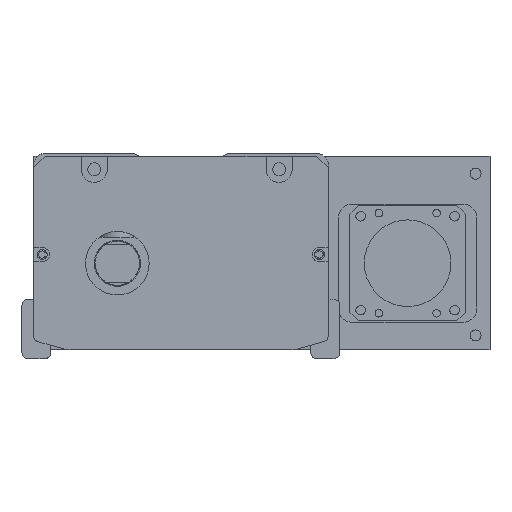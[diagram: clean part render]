
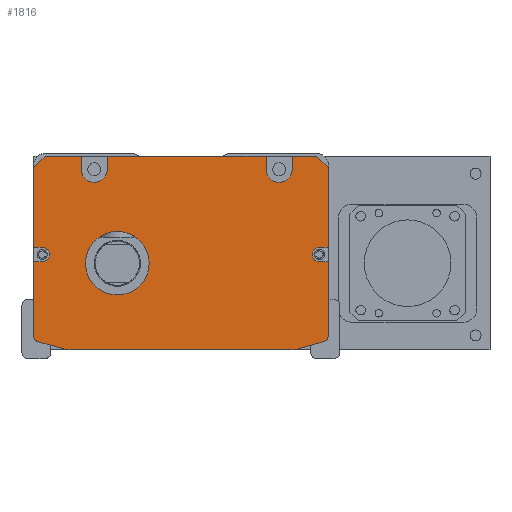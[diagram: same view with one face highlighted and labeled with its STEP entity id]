
A CAD part, front view. The second image highlights one B-rep face of the part: STEP entity #1816.
In plain terms, the highlighted planar face has unit normal (0, -1, 0).
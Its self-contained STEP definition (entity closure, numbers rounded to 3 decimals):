
#1816=ADVANCED_FACE('',(#4344,#4345),#2345,.F.);
#2345=PLANE('',#13677);
#2874=LINE('',#26432,#3667);
#2878=LINE('',#26441,#3671);
#2886=LINE('',#26468,#3679);
#2890=LINE('',#26477,#3683);
#2897=LINE('',#26493,#3690);
#2899=LINE('',#26498,#3692);
#2914=LINE('',#26541,#3707);
#2916=LINE('',#26549,#3709);
#2919=LINE('',#26553,#3712);
#2940=LINE('',#26621,#3733);
#2944=LINE('',#26630,#3737);
#2948=LINE('',#26639,#3741);
#2952=LINE('',#26648,#3745);
#2956=LINE('',#26664,#3749);
#2960=LINE('',#26670,#3753);
#2961=LINE('',#26671,#3754);
#2963=LINE('',#26687,#3756);
#2964=LINE('',#26688,#3757);
#2965=LINE('',#26689,#3758);
#2966=LINE('',#26690,#3759);
#3667=VECTOR('',#16139,1.);
#3671=VECTOR('',#16145,1.);
#3679=VECTOR('',#16167,1.);
#3683=VECTOR('',#16173,1.);
#3690=VECTOR('',#16182,1.);
#3692=VECTOR('',#16186,1.);
#3707=VECTOR('',#16225,1.);
#3709=VECTOR('',#16235,1.);
#3712=VECTOR('',#16240,1.);
#3733=VECTOR('',#16315,1.);
#3737=VECTOR('',#16321,1.);
#3741=VECTOR('',#16327,1.);
#3745=VECTOR('',#16333,1.);
#3749=VECTOR('',#16351,1.);
#3753=VECTOR('',#16355,1.);
#3754=VECTOR('',#16356,1.);
#3756=VECTOR('',#16380,1.);
#3757=VECTOR('',#16381,1.);
#3758=VECTOR('',#16382,1.);
#3759=VECTOR('',#16383,1.);
#4344=FACE_BOUND('',#5190,.T.);
#4345=FACE_BOUND('',#5191,.T.);
#5190=EDGE_LOOP('',(#7619,#7620,#7621,#7622,#7623,#7624,#7625,#7626,#7627,
#7628,#7629,#7630,#7631,#7632,#7633,#7634,#7635,#7636,#7637,#7638,#7639,
#7640,#7641,#7642,#7643,#7644,#7645,#7646));
#5191=EDGE_LOOP('',(#7647));
#7619=ORIENTED_EDGE('',*,*,#11532,.T.);
#7620=ORIENTED_EDGE('',*,*,#11409,.T.);
#7621=ORIENTED_EDGE('',*,*,#11519,.T.);
#7622=ORIENTED_EDGE('',*,*,#11436,.F.);
#7623=ORIENTED_EDGE('',*,*,#11473,.T.);
#7624=ORIENTED_EDGE('',*,*,#11438,.F.);
#7625=ORIENTED_EDGE('',*,*,#11524,.T.);
#7626=ORIENTED_EDGE('',*,*,#11425,.F.);
#7627=ORIENTED_EDGE('',*,*,#11470,.T.);
#7628=ORIENTED_EDGE('',*,*,#11429,.F.);
#7629=ORIENTED_EDGE('',*,*,#11523,.T.);
#7630=ORIENTED_EDGE('',*,*,#11413,.T.);
#7631=ORIENTED_EDGE('',*,*,#11533,.T.);
#7632=ORIENTED_EDGE('',*,*,#11503,.T.);
#7633=ORIENTED_EDGE('',*,*,#11531,.T.);
#7634=ORIENTED_EDGE('',*,*,#11499,.T.);
#7635=ORIENTED_EDGE('',*,*,#11534,.T.);
#7636=ORIENTED_EDGE('',*,*,#11456,.T.);
#7637=ORIENTED_EDGE('',*,*,#11459,.T.);
#7638=ORIENTED_EDGE('',*,*,#11462,.T.);
#7639=ORIENTED_EDGE('',*,*,#11463,.T.);
#7640=ORIENTED_EDGE('',*,*,#11419,.T.);
#7641=ORIENTED_EDGE('',*,*,#11466,.T.);
#7642=ORIENTED_EDGE('',*,*,#11421,.T.);
#7643=ORIENTED_EDGE('',*,*,#11535,.T.);
#7644=ORIENTED_EDGE('',*,*,#11511,.T.);
#7645=ORIENTED_EDGE('',*,*,#11530,.T.);
#7646=ORIENTED_EDGE('',*,*,#11507,.T.);
#7647=ORIENTED_EDGE('',*,*,#11475,.T.);
#9893=VERTEX_POINT('',#26433);
#9894=VERTEX_POINT('',#26434);
#9897=VERTEX_POINT('',#26442);
#9898=VERTEX_POINT('',#26443);
#9903=VERTEX_POINT('',#26454);
#9904=VERTEX_POINT('',#26456);
#9905=VERTEX_POINT('',#26460);
#9906=VERTEX_POINT('',#26461);
#9909=VERTEX_POINT('',#26469);
#9910=VERTEX_POINT('',#26470);
#9913=VERTEX_POINT('',#26478);
#9914=VERTEX_POINT('',#26479);
#9918=VERTEX_POINT('',#26488);
#9920=VERTEX_POINT('',#26492);
#9921=VERTEX_POINT('',#26496);
#9923=VERTEX_POINT('',#26499);
#9933=VERTEX_POINT('',#26529);
#9936=VERTEX_POINT('',#26534);
#9938=VERTEX_POINT('',#26540);
#9940=VERTEX_POINT('',#26546);
#9943=VERTEX_POINT('',#26572);
#9959=VERTEX_POINT('',#26619);
#9961=VERTEX_POINT('',#26622);
#9964=VERTEX_POINT('',#26629);
#9965=VERTEX_POINT('',#26631);
#9967=VERTEX_POINT('',#26637);
#9969=VERTEX_POINT('',#26640);
#9972=VERTEX_POINT('',#26647);
#9973=VERTEX_POINT('',#26649);
#11409=EDGE_CURVE('',#9893,#9894,#2874,.T.);
#11413=EDGE_CURVE('',#9897,#9898,#2878,.T.);
#11419=EDGE_CURVE('',#9904,#9903,#12564,.T.);
#11421=EDGE_CURVE('',#9905,#9906,#12565,.T.);
#11425=EDGE_CURVE('',#9909,#9910,#2886,.T.);
#11429=EDGE_CURVE('',#9913,#9914,#2890,.T.);
#11436=EDGE_CURVE('',#9920,#9918,#2897,.T.);
#11438=EDGE_CURVE('',#9921,#9923,#2899,.T.);
#11456=EDGE_CURVE('',#9933,#9936,#12572,.T.);
#11459=EDGE_CURVE('',#9936,#9938,#2914,.T.);
#11462=EDGE_CURVE('',#9938,#9940,#12574,.T.);
#11463=EDGE_CURVE('',#9940,#9904,#2916,.T.);
#11466=EDGE_CURVE('',#9903,#9905,#2919,.T.);
#11470=EDGE_CURVE('',#9909,#9914,#12577,.T.);
#11473=EDGE_CURVE('',#9920,#9923,#12580,.T.);
#11475=EDGE_CURVE('',#9943,#9943,#12581,.T.);
#11499=EDGE_CURVE('',#9961,#9959,#2940,.T.);
#11503=EDGE_CURVE('',#9965,#9964,#2944,.T.);
#11507=EDGE_CURVE('',#9969,#9967,#2948,.T.);
#11511=EDGE_CURVE('',#9973,#9972,#2952,.T.);
#11519=EDGE_CURVE('',#9894,#9918,#2956,.T.);
#11523=EDGE_CURVE('',#9913,#9897,#2960,.T.);
#11524=EDGE_CURVE('',#9921,#9910,#2961,.T.);
#11530=EDGE_CURVE('',#9972,#9969,#12595,.T.);
#11531=EDGE_CURVE('',#9964,#9961,#12596,.T.);
#11532=EDGE_CURVE('',#9967,#9893,#2963,.T.);
#11533=EDGE_CURVE('',#9898,#9965,#2964,.T.);
#11534=EDGE_CURVE('',#9959,#9933,#2965,.T.);
#11535=EDGE_CURVE('',#9906,#9973,#2966,.T.);
#12564=CIRCLE('',#13604,10.);
#12565=CIRCLE('',#13606,2.);
#12572=CIRCLE('',#13622,2.);
#12574=CIRCLE('',#13626,10.);
#12577=CIRCLE('',#13634,4.5);
#12580=CIRCLE('',#13639,4.5);
#12581=CIRCLE('',#13642,11.);
#12595=CIRCLE('',#13673,2.5);
#12596=CIRCLE('',#13675,2.5);
#13604=AXIS2_PLACEMENT_3D('',#26455,#16154,#16155);
#13606=AXIS2_PLACEMENT_3D('',#26459,#16159,#16160);
#13622=AXIS2_PLACEMENT_3D('',#26535,#16219,#16220);
#13626=AXIS2_PLACEMENT_3D('',#26547,#16231,#16232);
#13634=AXIS2_PLACEMENT_3D('',#26561,#16252,#16253);
#13639=AXIS2_PLACEMENT_3D('',#26567,#16262,#16263);
#13642=AXIS2_PLACEMENT_3D('',#26571,#16269,#16270);
#13673=AXIS2_PLACEMENT_3D('',#26683,#16372,#16373);
#13675=AXIS2_PLACEMENT_3D('',#26685,#16376,#16377);
#13677=AXIS2_PLACEMENT_3D('',#26691,#16384,#16385);
#16139=DIRECTION('',(-0.707,0.,0.707));
#16145=DIRECTION('',(-0.707,0.,-0.707));
#16154=DIRECTION('',(0.,-1.,0.));
#16155=DIRECTION('',(0.,0.,-1.));
#16159=DIRECTION('',(0.,-1.,0.));
#16160=DIRECTION('',(0.,0.,-1.));
#16167=DIRECTION('',(0.,0.,1.));
#16173=DIRECTION('',(0.,0.,-1.));
#16182=DIRECTION('',(0.,0.,1.));
#16186=DIRECTION('',(0.,0.,-1.));
#16219=DIRECTION('',(0.,-1.,0.));
#16220=DIRECTION('',(0.,0.,1.));
#16225=DIRECTION('',(0.963,0.,-0.269));
#16231=DIRECTION('',(0.,-1.,0.));
#16232=DIRECTION('',(0.,0.,1.));
#16235=DIRECTION('',(1.,0.,0.));
#16240=DIRECTION('',(0.963,0.,0.269));
#16252=DIRECTION('',(0.,1.,0.));
#16253=DIRECTION('',(0.,0.,1.));
#16262=DIRECTION('',(0.,1.,0.));
#16263=DIRECTION('',(0.,0.,1.));
#16269=DIRECTION('',(0.,1.,0.));
#16270=DIRECTION('',(0.,0.,1.));
#16315=DIRECTION('',(-1.,0.,0.));
#16321=DIRECTION('',(1.,0.,0.));
#16327=DIRECTION('',(1.,0.,0.));
#16333=DIRECTION('',(-1.,0.,0.));
#16351=DIRECTION('',(-1.,0.,0.));
#16355=DIRECTION('',(-1.,0.,0.));
#16356=DIRECTION('',(-1.,0.,0.));
#16372=DIRECTION('',(0.,1.,0.));
#16373=DIRECTION('',(0.,0.,1.));
#16376=DIRECTION('',(0.,1.,0.));
#16377=DIRECTION('',(0.,0.,1.));
#16380=DIRECTION('',(0.,0.,1.));
#16381=DIRECTION('',(0.,0.,-1.));
#16382=DIRECTION('',(0.,0.,-1.));
#16383=DIRECTION('',(0.,0.,1.));
#16384=DIRECTION('',(0.,1.,0.));
#16385=DIRECTION('',(-1.,0.,0.));
#26432=CARTESIAN_POINT('',(43.808,-17.5,-1.));
#26433=CARTESIAN_POINT('',(47.808,-17.5,-5.));
#26434=CARTESIAN_POINT('',(43.808,-17.5,-1.));
#26441=CARTESIAN_POINT('',(-54.192,-17.5,-5.));
#26442=CARTESIAN_POINT('',(-50.192,-17.5,-1.));
#26443=CARTESIAN_POINT('',(-54.192,-17.5,-5.));
#26454=CARTESIAN_POINT('',(37.424,-17.5,-67.631));
#26455=CARTESIAN_POINT('',(34.733,-17.5,-58.));
#26456=CARTESIAN_POINT('',(34.733,-17.5,-68.));
#26459=CARTESIAN_POINT('',(45.808,-17.5,-63.212));
#26460=CARTESIAN_POINT('',(46.346,-17.5,-65.138));
#26461=CARTESIAN_POINT('',(47.808,-17.5,-63.212));
#26468=CARTESIAN_POINT('',(-28.692,-17.5,-3.5));
#26469=CARTESIAN_POINT('',(-28.692,-17.5,-5.5));
#26470=CARTESIAN_POINT('',(-28.692,-17.5,-1.));
#26477=CARTESIAN_POINT('',(-37.692,-17.5,-1.));
#26478=CARTESIAN_POINT('',(-37.692,-17.5,-1.));
#26479=CARTESIAN_POINT('',(-37.692,-17.5,-5.5));
#26488=CARTESIAN_POINT('',(35.308,-17.5,-1.));
#26492=CARTESIAN_POINT('',(35.308,-17.5,-5.5));
#26493=CARTESIAN_POINT('',(35.308,-17.5,-1.));
#26496=CARTESIAN_POINT('',(26.308,-17.5,-1.));
#26498=CARTESIAN_POINT('',(26.308,-17.5,-1.));
#26499=CARTESIAN_POINT('',(26.308,-17.5,-5.5));
#26529=CARTESIAN_POINT('',(-54.192,-17.5,-63.212));
#26534=CARTESIAN_POINT('',(-52.731,-17.5,-65.138));
#26535=CARTESIAN_POINT('',(-52.192,-17.5,-63.212));
#26540=CARTESIAN_POINT('',(-43.809,-17.5,-67.631));
#26541=CARTESIAN_POINT('',(-55.807,-17.5,-64.279));
#26546=CARTESIAN_POINT('',(-41.118,-17.5,-68.));
#26547=CARTESIAN_POINT('',(-41.118,-17.5,-58.));
#26549=CARTESIAN_POINT('',(-54.692,-17.5,-68.));
#26553=CARTESIAN_POINT('',(49.422,-17.5,-64.279));
#26561=CARTESIAN_POINT('',(-33.192,-17.5,-5.5));
#26567=CARTESIAN_POINT('',(30.808,-17.5,-5.5));
#26571=CARTESIAN_POINT('',(-25.192,-17.5,-38.));
#26572=CARTESIAN_POINT('',(-25.192,-17.5,-27.));
#26619=CARTESIAN_POINT('',(-54.192,-17.5,-37.5));
#26621=CARTESIAN_POINT('',(-3.192,-17.5,-37.5));
#26622=CARTESIAN_POINT('',(-51.192,-17.5,-37.5));
#26629=CARTESIAN_POINT('',(-51.192,-17.5,-32.5));
#26630=CARTESIAN_POINT('',(-3.192,-17.5,-32.5));
#26631=CARTESIAN_POINT('',(-54.192,-17.5,-32.5));
#26637=CARTESIAN_POINT('',(47.808,-17.5,-32.5));
#26639=CARTESIAN_POINT('',(-3.192,-17.5,-32.5));
#26640=CARTESIAN_POINT('',(44.808,-17.5,-32.5));
#26647=CARTESIAN_POINT('',(44.808,-17.5,-37.5));
#26648=CARTESIAN_POINT('',(-3.192,-17.5,-37.5));
#26649=CARTESIAN_POINT('',(47.808,-17.5,-37.5));
#26664=CARTESIAN_POINT('',(-3.192,-17.5,-1.));
#26670=CARTESIAN_POINT('',(-54.192,-17.5,-1.));
#26671=CARTESIAN_POINT('',(-54.192,-17.5,-1.));
#26683=CARTESIAN_POINT('',(44.808,-17.5,-35.));
#26685=CARTESIAN_POINT('',(-51.192,-17.5,-35.));
#26687=CARTESIAN_POINT('',(47.808,-17.5,-1.));
#26688=CARTESIAN_POINT('',(-54.192,-17.5,-62.));
#26689=CARTESIAN_POINT('',(-54.192,-17.5,-62.));
#26690=CARTESIAN_POINT('',(47.808,-17.5,-1.));
#26691=CARTESIAN_POINT('',(-3.192,-17.5,-1.));
